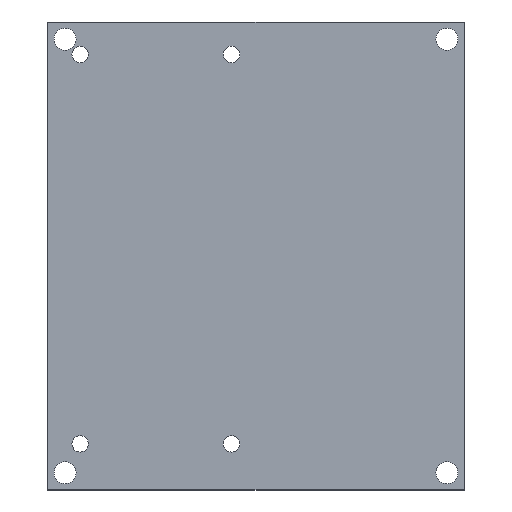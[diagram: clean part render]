
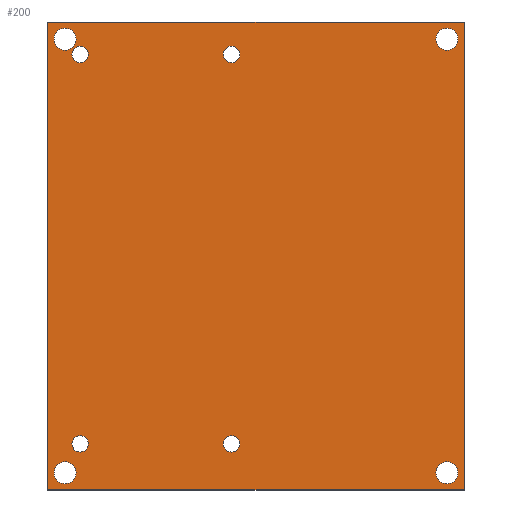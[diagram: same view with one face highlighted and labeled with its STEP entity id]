
A CAD part, top view. The second image highlights one B-rep face of the part: STEP entity #200.
In plain terms, the highlighted planar face has unit normal (0, 0, 1).
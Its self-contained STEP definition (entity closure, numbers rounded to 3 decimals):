
#32 = VERTEX_POINT('',#33);
#33 = CARTESIAN_POINT('',(0.,68.,2.5));
#39 = EDGE_CURVE('',#32,#40,#42,.T.);
#40 = VERTEX_POINT('',#41);
#41 = CARTESIAN_POINT('',(0.,0.,2.5));
#42 = LINE('',#43,#44);
#43 = CARTESIAN_POINT('',(0.,68.,2.5));
#44 = VECTOR('',#45,1.);
#45 = DIRECTION('',(0.,-1.,0.));
#183 = VERTEX_POINT('',#184);
#184 = CARTESIAN_POINT('',(60.5,0.,2.5));
#190 = EDGE_CURVE('',#40,#183,#191,.T.);
#191 = LINE('',#192,#193);
#192 = CARTESIAN_POINT('',(0.,0.,2.5));
#193 = VECTOR('',#194,1.);
#194 = DIRECTION('',(1.,0.,0.));
#200 = ADVANCED_FACE('',(#201,#219,#230,#241,#252,#263,#274,#285,#296),
  #307,.T.);
#201 = FACE_BOUND('',#202,.T.);
#202 = EDGE_LOOP('',(#203,#211,#212,#213));
#203 = ORIENTED_EDGE('',*,*,#204,.F.);
#204 = EDGE_CURVE('',#32,#205,#207,.T.);
#205 = VERTEX_POINT('',#206);
#206 = CARTESIAN_POINT('',(60.5,68.,2.5));
#207 = LINE('',#208,#209);
#208 = CARTESIAN_POINT('',(0.,68.,2.5));
#209 = VECTOR('',#210,1.);
#210 = DIRECTION('',(1.,0.,0.));
#211 = ORIENTED_EDGE('',*,*,#39,.T.);
#212 = ORIENTED_EDGE('',*,*,#190,.T.);
#213 = ORIENTED_EDGE('',*,*,#214,.F.);
#214 = EDGE_CURVE('',#205,#183,#215,.T.);
#215 = LINE('',#216,#217);
#216 = CARTESIAN_POINT('',(60.5,68.,2.5));
#217 = VECTOR('',#218,1.);
#218 = DIRECTION('',(0.,-1.,0.));
#219 = FACE_BOUND('',#220,.T.);
#220 = EDGE_LOOP('',(#221));
#221 = ORIENTED_EDGE('',*,*,#222,.F.);
#222 = EDGE_CURVE('',#223,#223,#225,.T.);
#223 = VERTEX_POINT('',#224);
#224 = CARTESIAN_POINT('',(2.5,63.9,2.5));
#225 = CIRCLE('',#226,1.6);
#226 = AXIS2_PLACEMENT_3D('',#227,#228,#229);
#227 = CARTESIAN_POINT('',(2.5,65.5,2.5));
#228 = DIRECTION('',(0.,0.,1.));
#229 = DIRECTION('',(0.,-1.,0.));
#230 = FACE_BOUND('',#231,.T.);
#231 = EDGE_LOOP('',(#232));
#232 = ORIENTED_EDGE('',*,*,#233,.F.);
#233 = EDGE_CURVE('',#234,#234,#236,.T.);
#234 = VERTEX_POINT('',#235);
#235 = CARTESIAN_POINT('',(4.7,62.1,2.5));
#236 = CIRCLE('',#237,1.2);
#237 = AXIS2_PLACEMENT_3D('',#238,#239,#240);
#238 = CARTESIAN_POINT('',(4.7,63.3,2.5));
#239 = DIRECTION('',(0.,0.,1.));
#240 = DIRECTION('',(0.,-1.,0.));
#241 = FACE_BOUND('',#242,.T.);
#242 = EDGE_LOOP('',(#243));
#243 = ORIENTED_EDGE('',*,*,#244,.F.);
#244 = EDGE_CURVE('',#245,#245,#247,.T.);
#245 = VERTEX_POINT('',#246);
#246 = CARTESIAN_POINT('',(26.7,62.1,2.5));
#247 = CIRCLE('',#248,1.2);
#248 = AXIS2_PLACEMENT_3D('',#249,#250,#251);
#249 = CARTESIAN_POINT('',(26.7,63.3,2.5));
#250 = DIRECTION('',(0.,0.,1.));
#251 = DIRECTION('',(0.,-1.,0.));
#252 = FACE_BOUND('',#253,.T.);
#253 = EDGE_LOOP('',(#254));
#254 = ORIENTED_EDGE('',*,*,#255,.F.);
#255 = EDGE_CURVE('',#256,#256,#258,.T.);
#256 = VERTEX_POINT('',#257);
#257 = CARTESIAN_POINT('',(2.5,0.9,2.5));
#258 = CIRCLE('',#259,1.6);
#259 = AXIS2_PLACEMENT_3D('',#260,#261,#262);
#260 = CARTESIAN_POINT('',(2.5,2.5,2.5));
#261 = DIRECTION('',(0.,0.,1.));
#262 = DIRECTION('',(0.,-1.,0.));
#263 = FACE_BOUND('',#264,.T.);
#264 = EDGE_LOOP('',(#265));
#265 = ORIENTED_EDGE('',*,*,#266,.F.);
#266 = EDGE_CURVE('',#267,#267,#269,.T.);
#267 = VERTEX_POINT('',#268);
#268 = CARTESIAN_POINT('',(4.7,5.5,2.5));
#269 = CIRCLE('',#270,1.2);
#270 = AXIS2_PLACEMENT_3D('',#271,#272,#273);
#271 = CARTESIAN_POINT('',(4.7,6.7,2.5));
#272 = DIRECTION('',(0.,0.,1.));
#273 = DIRECTION('',(0.,-1.,0.));
#274 = FACE_BOUND('',#275,.T.);
#275 = EDGE_LOOP('',(#276));
#276 = ORIENTED_EDGE('',*,*,#277,.F.);
#277 = EDGE_CURVE('',#278,#278,#280,.T.);
#278 = VERTEX_POINT('',#279);
#279 = CARTESIAN_POINT('',(26.7,5.5,2.5));
#280 = CIRCLE('',#281,1.2);
#281 = AXIS2_PLACEMENT_3D('',#282,#283,#284);
#282 = CARTESIAN_POINT('',(26.7,6.7,2.5));
#283 = DIRECTION('',(0.,0.,1.));
#284 = DIRECTION('',(0.,-1.,0.));
#285 = FACE_BOUND('',#286,.T.);
#286 = EDGE_LOOP('',(#287));
#287 = ORIENTED_EDGE('',*,*,#288,.F.);
#288 = EDGE_CURVE('',#289,#289,#291,.T.);
#289 = VERTEX_POINT('',#290);
#290 = CARTESIAN_POINT('',(58.,63.9,2.5));
#291 = CIRCLE('',#292,1.6);
#292 = AXIS2_PLACEMENT_3D('',#293,#294,#295);
#293 = CARTESIAN_POINT('',(58.,65.5,2.5));
#294 = DIRECTION('',(0.,0.,1.));
#295 = DIRECTION('',(0.,-1.,0.));
#296 = FACE_BOUND('',#297,.T.);
#297 = EDGE_LOOP('',(#298));
#298 = ORIENTED_EDGE('',*,*,#299,.F.);
#299 = EDGE_CURVE('',#300,#300,#302,.T.);
#300 = VERTEX_POINT('',#301);
#301 = CARTESIAN_POINT('',(58.,0.9,2.5));
#302 = CIRCLE('',#303,1.6);
#303 = AXIS2_PLACEMENT_3D('',#304,#305,#306);
#304 = CARTESIAN_POINT('',(58.,2.5,2.5));
#305 = DIRECTION('',(0.,0.,1.));
#306 = DIRECTION('',(0.,-1.,0.));
#307 = PLANE('',#308);
#308 = AXIS2_PLACEMENT_3D('',#309,#310,#311);
#309 = CARTESIAN_POINT('',(0.,68.,2.5));
#310 = DIRECTION('',(0.,0.,1.));
#311 = DIRECTION('',(0.,-1.,0.));
